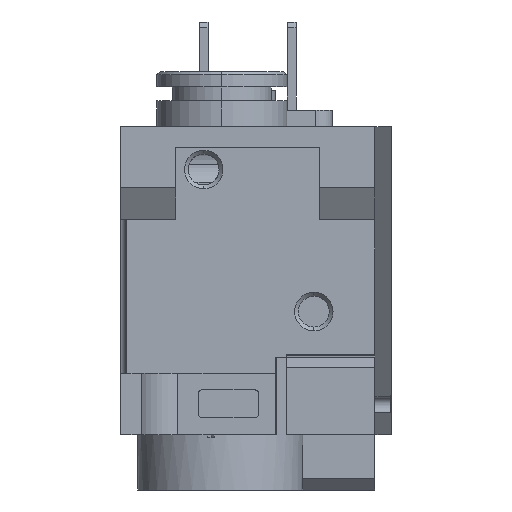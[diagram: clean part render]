
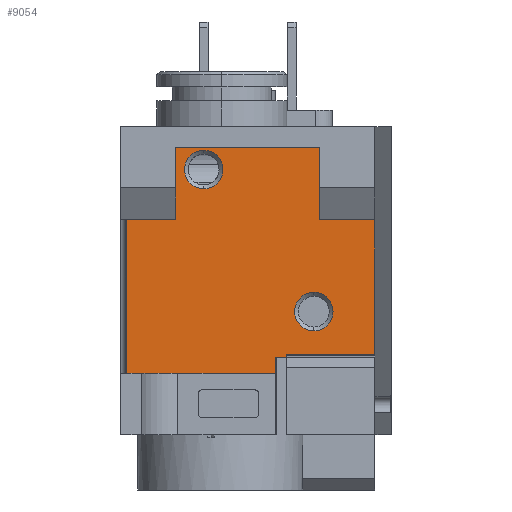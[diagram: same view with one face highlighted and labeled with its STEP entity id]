
A CAD part, front view. The second image highlights one B-rep face of the part: STEP entity #9054.
In plain terms, the highlighted planar face has unit normal (0, -1, 0).
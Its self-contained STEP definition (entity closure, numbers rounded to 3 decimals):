
#528=DIRECTION('',(0.,0.,1.));
#529=VECTOR('',#528,13.595);
#530=CARTESIAN_POINT('',(11.55,-19.6,-6.695));
#531=LINE('',#530,#529);
#2749=DIRECTION('',(0.,0.,-1.));
#2750=VECTOR('',#2749,5.2);
#2751=CARTESIAN_POINT('',(-6.55,-19.6,12.1));
#2752=LINE('',#2751,#2750);
#2753=DIRECTION('',(-1.,0.,0.));
#2754=VECTOR('',#2753,13.1);
#2755=CARTESIAN_POINT('',(6.55,-19.6,12.1));
#2756=LINE('',#2755,#2754);
#2757=DIRECTION('',(0.,0.,1.));
#2758=VECTOR('',#2757,5.2);
#2759=CARTESIAN_POINT('',(6.55,-19.6,6.9));
#2760=LINE('',#2759,#2758);
#2761=DIRECTION('',(-1.,0.,0.));
#2762=VECTOR('',#2761,8.);
#2763=CARTESIAN_POINT('',(11.55,-19.6,-6.695));
#2764=LINE('',#2763,#2762);
#2765=DIRECTION('',(0.,0.,1.));
#2766=VECTOR('',#2765,1.705);
#2767=CARTESIAN_POINT('',(3.55,-19.6,-8.4));
#2768=LINE('',#2767,#2766);
#2769=DIRECTION('',(-1.,0.,0.));
#2770=VECTOR('',#2769,0.05);
#2771=CARTESIAN_POINT('',(3.55,-19.6,-8.4));
#2772=LINE('',#2771,#2770);
#2773=DIRECTION('',(0.,0.,1.));
#2774=VECTOR('',#2773,1.4);
#2775=CARTESIAN_POINT('',(3.5,-19.6,-8.4));
#2776=LINE('',#2775,#2774);
#2777=DIRECTION('',(-1.,0.,0.));
#2778=VECTOR('',#2777,1.);
#2779=CARTESIAN_POINT('',(3.5,-19.6,-7.));
#2780=LINE('',#2779,#2778);
#2781=DIRECTION('',(0.,0.,1.));
#2782=VECTOR('',#2781,1.4);
#2783=CARTESIAN_POINT('',(2.5,-19.6,-8.4));
#2784=LINE('',#2783,#2782);
#2785=DIRECTION('',(-1.,0.,0.));
#2786=VECTOR('',#2785,8.9);
#2787=CARTESIAN_POINT('',(2.5,-19.6,-8.4));
#2788=LINE('',#2787,#2786);
#2789=DIRECTION('',(1.,0.,0.));
#2790=VECTOR('',#2789,3.2);
#2791=CARTESIAN_POINT('',(-9.6,-19.6,-8.4));
#2792=LINE('',#2791,#2790);
#2793=DIRECTION('',(-1.,0.,0.));
#2794=VECTOR('',#2793,1.46);
#2795=CARTESIAN_POINT('',(-9.6,-19.6,-8.4));
#2796=LINE('',#2795,#2794);
#2797=DIRECTION('',(0.,0.,1.));
#2798=VECTOR('',#2797,15.3);
#2799=CARTESIAN_POINT('',(-11.06,-19.6,-8.4));
#2800=LINE('',#2799,#2798);
#2801=CARTESIAN_POINT('',(6.,-19.6,-2.8));
#2802=DIRECTION('',(0.,1.,0.));
#2803=DIRECTION('',(0.,0.,-1.));
#2804=AXIS2_PLACEMENT_3D('',#2801,#2802,#2803);
#2806=CARTESIAN_POINT('',(6.,-19.6,-2.8));
#2807=DIRECTION('',(0.,1.,0.));
#2808=DIRECTION('',(0.,0.,1.));
#2809=AXIS2_PLACEMENT_3D('',#2806,#2807,#2808);
#2811=CARTESIAN_POINT('',(-4.,-19.6,10.1));
#2812=DIRECTION('',(0.,1.,0.));
#2813=DIRECTION('',(0.,0.,-1.));
#2814=AXIS2_PLACEMENT_3D('',#2811,#2812,#2813);
#2821=CARTESIAN_POINT('',(-4.,-19.6,10.1));
#2822=DIRECTION('',(0.,1.,0.));
#2823=DIRECTION('',(0.,0.,1.));
#2824=AXIS2_PLACEMENT_3D('',#2821,#2822,#2823);
#2861=DIRECTION('',(-1.,0.,0.));
#2862=VECTOR('',#2861,5.);
#2863=CARTESIAN_POINT('',(11.55,-19.6,6.9));
#2864=LINE('',#2863,#2862);
#2869=DIRECTION('',(-1.,0.,0.));
#2870=VECTOR('',#2869,4.51);
#2871=CARTESIAN_POINT('',(-6.55,-19.6,6.9));
#2872=LINE('',#2871,#2870);
#4944=CARTESIAN_POINT('',(11.55,-19.6,6.9));
#4946=VERTEX_POINT('',#4944);
#4998=CARTESIAN_POINT('',(11.55,-19.6,-6.695));
#4999=VERTEX_POINT('',#4998);
#5000=CARTESIAN_POINT('',(3.55,-19.6,-8.4));
#5001=CARTESIAN_POINT('',(3.55,-19.6,-6.695));
#5002=VERTEX_POINT('',#5000);
#5003=VERTEX_POINT('',#5001);
#5060=CARTESIAN_POINT('',(3.5,-19.6,-7.));
#5061=CARTESIAN_POINT('',(2.5,-19.6,-7.));
#5062=VERTEX_POINT('',#5060);
#5063=VERTEX_POINT('',#5061);
#5064=CARTESIAN_POINT('',(3.5,-19.6,-8.4));
#5065=VERTEX_POINT('',#5064);
#5066=CARTESIAN_POINT('',(2.5,-19.6,-8.4));
#5067=VERTEX_POINT('',#5066);
#5152=CARTESIAN_POINT('',(-9.6,-19.6,-8.4));
#5153=CARTESIAN_POINT('',(-6.4,-19.6,-8.4));
#5154=VERTEX_POINT('',#5152);
#5155=VERTEX_POINT('',#5153);
#5234=CARTESIAN_POINT('',(-11.06,-19.6,-8.4));
#5235=CARTESIAN_POINT('',(-11.06,-19.6,6.9));
#5236=VERTEX_POINT('',#5234);
#5237=VERTEX_POINT('',#5235);
#5238=CARTESIAN_POINT('',(6.55,-19.6,12.1));
#5239=CARTESIAN_POINT('',(-6.55,-19.6,12.1));
#5240=VERTEX_POINT('',#5238);
#5241=VERTEX_POINT('',#5239);
#5250=CARTESIAN_POINT('',(6.55,-19.6,6.9));
#5252=VERTEX_POINT('',#5250);
#5254=CARTESIAN_POINT('',(-6.55,-19.6,6.9));
#5256=VERTEX_POINT('',#5254);
#5355=CARTESIAN_POINT('',(6.,-19.6,-4.55));
#5356=CARTESIAN_POINT('',(6.,-19.6,-1.05));
#5357=VERTEX_POINT('',#5355);
#5358=VERTEX_POINT('',#5356);
#5359=CARTESIAN_POINT('',(-4.,-19.6,8.35));
#5360=CARTESIAN_POINT('',(-4.,-19.6,11.85));
#5361=VERTEX_POINT('',#5359);
#5362=VERTEX_POINT('',#5360);
#9006=CARTESIAN_POINT('',(11.55,-19.6,-8.4));
#9007=DIRECTION('',(0.,1.,0.));
#9008=DIRECTION('',(0.,0.,1.));
#9009=AXIS2_PLACEMENT_3D('',#9006,#9007,#9008);
#9010=PLANE('',#9009);
#9012=ORIENTED_EDGE('',*,*,#9011,.F.);
#9014=ORIENTED_EDGE('',*,*,#9013,.F.);
#9016=ORIENTED_EDGE('',*,*,#9015,.F.);
#9018=ORIENTED_EDGE('',*,*,#9017,.F.);
#9020=ORIENTED_EDGE('',*,*,#9019,.F.);
#9021=ORIENTED_EDGE('',*,*,#6259,.F.);
#9023=ORIENTED_EDGE('',*,*,#9022,.T.);
#9024=ORIENTED_EDGE('',*,*,#8945,.F.);
#9026=ORIENTED_EDGE('',*,*,#9025,.T.);
#9028=ORIENTED_EDGE('',*,*,#9027,.T.);
#9029=ORIENTED_EDGE('',*,*,#8991,.T.);
#9031=ORIENTED_EDGE('',*,*,#9030,.F.);
#9033=ORIENTED_EDGE('',*,*,#9032,.T.);
#9035=ORIENTED_EDGE('',*,*,#9034,.F.);
#9037=ORIENTED_EDGE('',*,*,#9036,.T.);
#9039=ORIENTED_EDGE('',*,*,#9038,.T.);
#9040=EDGE_LOOP('',(#9012,#9014,#9016,#9018,#9020,#9021,#9023,#9024,#9026,#9028,
#9029,#9031,#9033,#9035,#9037,#9039));
#9041=FACE_OUTER_BOUND('',#9040,.F.);
#9043=ORIENTED_EDGE('',*,*,#9042,.F.);
#9045=ORIENTED_EDGE('',*,*,#9044,.F.);
#9046=EDGE_LOOP('',(#9043,#9045));
#9047=FACE_BOUND('',#9046,.F.);
#9049=ORIENTED_EDGE('',*,*,#9048,.F.);
#9051=ORIENTED_EDGE('',*,*,#9050,.F.);
#9052=EDGE_LOOP('',(#9049,#9051));
#9053=FACE_BOUND('',#9052,.F.);
#9054=ADVANCED_FACE('',(#9041,#9047,#9053),#9010,.F.);
#2805=CIRCLE('',#2804,1.75);
#2810=CIRCLE('',#2809,1.75);
#2815=CIRCLE('',#2814,1.75);
#2825=CIRCLE('',#2824,1.75);
#6259=EDGE_CURVE('',#4999,#4946,#531,.T.);
#8945=EDGE_CURVE('',#5002,#5003,#2768,.T.);
#8991=EDGE_CURVE('',#5062,#5063,#2780,.T.);
#9011=EDGE_CURVE('',#5256,#5237,#2872,.T.);
#9013=EDGE_CURVE('',#5241,#5256,#2752,.T.);
#9015=EDGE_CURVE('',#5240,#5241,#2756,.T.);
#9017=EDGE_CURVE('',#5252,#5240,#2760,.T.);
#9019=EDGE_CURVE('',#4946,#5252,#2864,.T.);
#9022=EDGE_CURVE('',#4999,#5003,#2764,.T.);
#9025=EDGE_CURVE('',#5002,#5065,#2772,.T.);
#9027=EDGE_CURVE('',#5065,#5062,#2776,.T.);
#9030=EDGE_CURVE('',#5067,#5063,#2784,.T.);
#9032=EDGE_CURVE('',#5067,#5155,#2788,.T.);
#9034=EDGE_CURVE('',#5154,#5155,#2792,.T.);
#9036=EDGE_CURVE('',#5154,#5236,#2796,.T.);
#9038=EDGE_CURVE('',#5236,#5237,#2800,.T.);
#9042=EDGE_CURVE('',#5361,#5362,#2815,.T.);
#9044=EDGE_CURVE('',#5362,#5361,#2825,.T.);
#9048=EDGE_CURVE('',#5357,#5358,#2805,.T.);
#9050=EDGE_CURVE('',#5358,#5357,#2810,.T.);
